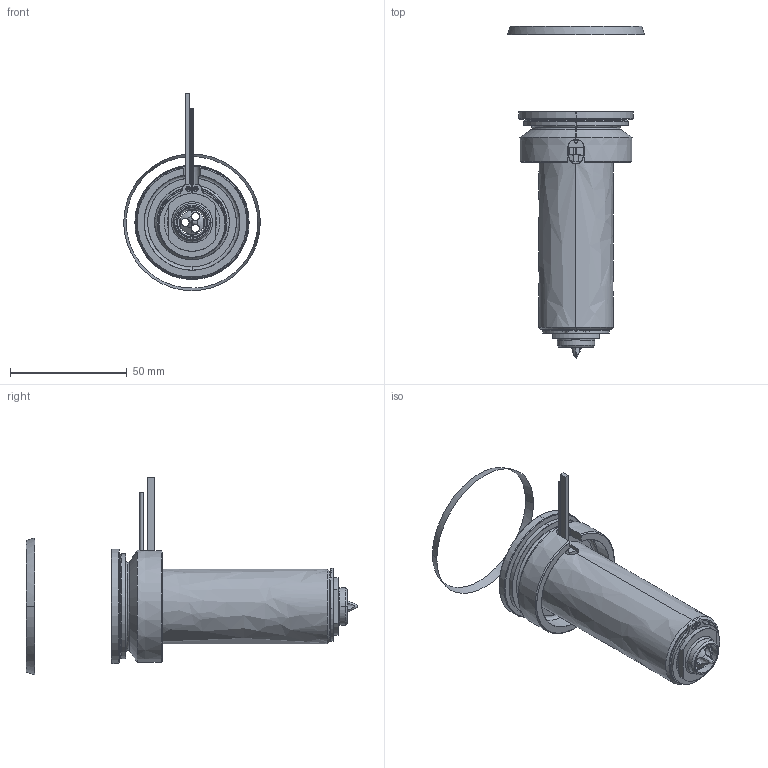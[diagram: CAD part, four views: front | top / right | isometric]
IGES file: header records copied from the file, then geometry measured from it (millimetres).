
Start section: SolidWorks IGES file using analytic representation for surfaces
Global section: file name: C:\Documents and Settings\ws-20\Desktop\TEM\UGEP5002-S-A-0 [Øf-0.80 ØC-13].IGS; native system: SolidWorks 2012; preprocessor: SolidWorks 2012; author: ws-20; date: 120426.101507; units: millimetre
Bounding box: 58.57 x 142.24 x 84.59 mm (x, y, z)
Surface area: 41612.6 mm2 (no closed solid volume)
Topology: 0 solids, 0 shells, 125 faces, 2406 edges, 2406 vertices
Faces by surface type: revolution 81, bspline 44
